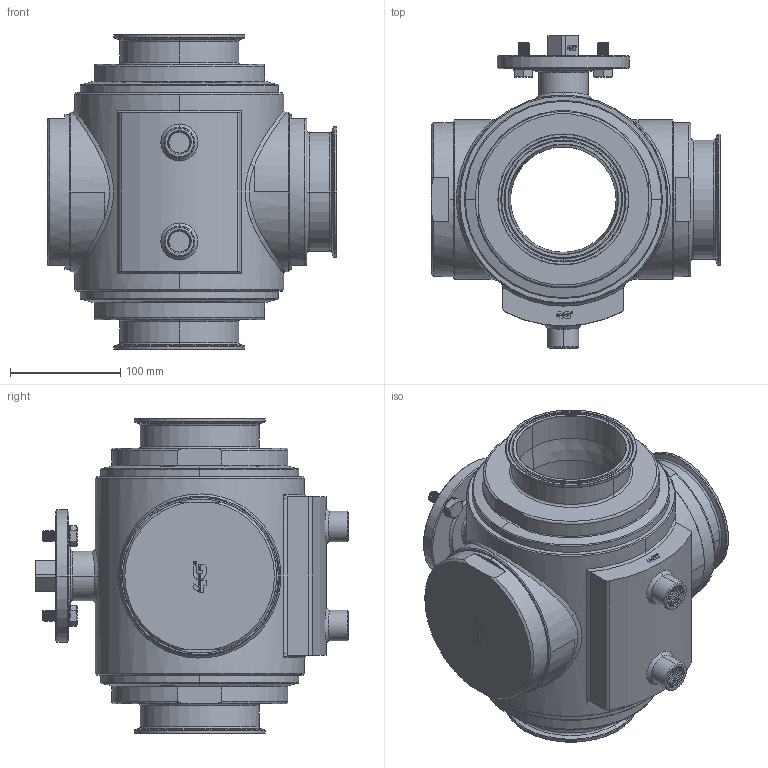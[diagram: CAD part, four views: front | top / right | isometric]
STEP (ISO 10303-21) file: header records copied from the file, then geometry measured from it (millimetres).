
FILE_DESCRIPTION((''),'2;1');
FILE_NAME('303030C6561F','2025-02-03T16:06:51',('tecnico2'),('CDM Tecnoconsulting'),'CREO PARAMETRIC BY PTC INC, 2024063','CREO PARAMETRIC BY PTC INC, 2024063','');
FILE_SCHEMA(('CONFIG_CONTROL_DESIGN','SHAPE_APPEARANCE_LAYERS_GROUPS'));
Products named in the file (1): 303030C6561F
Bounding box: 263 x 284 x 286 mm (x, y, z)
Volume: 4587171.2 mm3; surface area: 664307.6 mm2
Topology: 1 solids, 1 shells, 2200 faces, 5936 edges, 3845 vertices
Faces by surface type: plane 940, cylinder 525, extrusion 260, cone 259, bspline 126, torus 86, sphere 4
Entity records: 145262 total; most frequent: CARTESIAN_POINT 70426, ORIENTED_EDGE 11856, DIRECTION 9134, PRESENTATION_STYLE_ASSIGNMENT 6702, STYLED_ITEM 6078, CURVE_STYLE 6077, EDGE_CURVE 5928, VERTEX_POINT 3845
